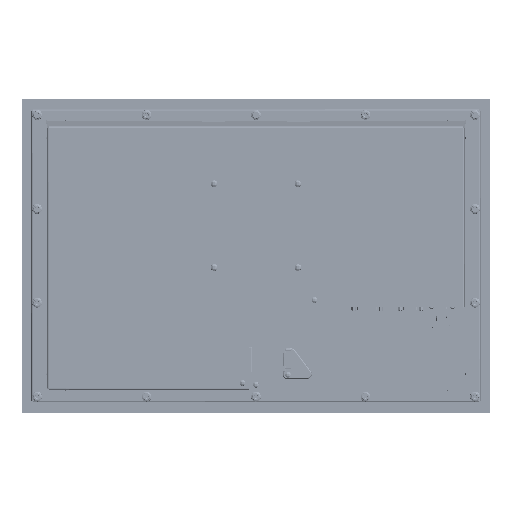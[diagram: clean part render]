
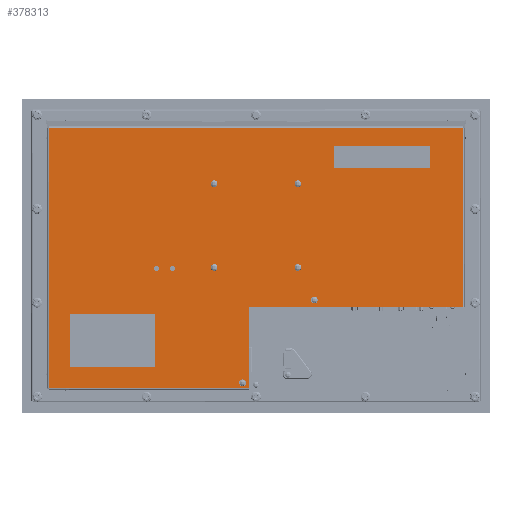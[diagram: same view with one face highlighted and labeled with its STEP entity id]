
A CAD part, top view. The second image highlights one B-rep face of the part: STEP entity #378313.
In plain terms, the highlighted planar face has unit normal (0, 0, 1).
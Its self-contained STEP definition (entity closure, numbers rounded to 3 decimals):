
#11229 = FACE_BOUND ( 'NONE', #327387, .T. ) ;
#22859 = FACE_BOUND ( 'NONE', #1001174, .T. ) ;
#39626 = VECTOR ( 'NONE', #1009216, 1000. ) ;
#45321 = CARTESIAN_POINT ( 'NONE',  ( 73.823, -52.604, 46.66 ) ) ;
#65424 = ORIENTED_EDGE ( 'NONE', *, *, #331232, .T. ) ;
#76864 = CARTESIAN_POINT ( 'NONE',  ( -7.874, -158.268, 46.66 ) ) ;
#85478 = VERTEX_POINT ( 'NONE', #45321 ) ;
#88569 = PLANE ( 'NONE',  #606086 ) ;
#94731 = AXIS2_PLACEMENT_3D ( 'NONE', #1047636, #235249, #419058 ) ;
#106246 = CARTESIAN_POINT ( 'NONE',  ( 247.269, 152.965, 46.66 ) ) ;
#125897 = EDGE_CURVE ( 'NONE', #279205, #993759, #923494, .T. ) ;
#148728 = VECTOR ( 'NONE', #293407, 1000. ) ;
#151752 = EDGE_CURVE ( 'NONE', #984573, #556070, #1061907, .T. ) ;
#160370 = CARTESIAN_POINT ( 'NONE',  ( -7.874, -158.268, 46.66 ) ) ;
#166311 = CIRCLE ( 'NONE', #829125, 4.064 ) ;
#175962 = VECTOR ( 'NONE', #966991, 1000. ) ;
#195092 = DIRECTION ( 'NONE',  ( 0., 0., 1. ) ) ;
#206605 = VERTEX_POINT ( 'NONE', #76864 ) ;
#221917 = LINE ( 'NONE', #660962, #148728 ) ;
#228861 = AXIS2_PLACEMENT_3D ( 'NONE', #1071170, #258775, #1082827 ) ;
#235249 = DIRECTION ( 'NONE',  ( 0., 0., 1. ) ) ;
#235319 = DIRECTION ( 'NONE',  ( 1., 0., 0. ) ) ;
#249376 = LINE ( 'NONE', #160370, #175962 ) ;
#258775 = DIRECTION ( 'NONE',  ( 0., 0., 1. ) ) ;
#279205 = VERTEX_POINT ( 'NONE', #1035155 ) ;
#284084 = DIRECTION ( 'NONE',  ( 1., 0., 0. ) ) ;
#293407 = DIRECTION ( 'NONE',  ( 0., 1., 0. ) ) ;
#326876 = VERTEX_POINT ( 'NONE', #963621 ) ;
#327387 = EDGE_LOOP ( 'NONE', ( #764228, #826970 ) ) ;
#331232 = EDGE_CURVE ( 'NONE', #993759, #326876, #221917, .T. ) ;
#349477 = AXIS2_PLACEMENT_3D ( 'NONE', #445874, #374436, #718626 ) ;
#374436 = DIRECTION ( 'NONE',  ( 0., 0., 1. ) ) ;
#378313 = ADVANCED_FACE ( 'Defeatured_120_9451', ( #22859, #11229, #906911 ), #88569, .T. ) ;
#419058 = DIRECTION ( 'NONE',  ( 1., 0., 0. ) ) ;
#445874 = CARTESIAN_POINT ( 'NONE',  ( 69.759, -52.604, 46.66 ) ) ;
#456602 = VECTOR ( 'NONE', #656530, 1000. ) ;
#457036 = EDGE_CURVE ( 'NONE', #85478, #978349, #965894, .T. ) ;
#459427 = EDGE_CURVE ( 'NONE', #916481, #206605, #1136756, .T. ) ;
#462036 = CARTESIAN_POINT ( 'NONE',  ( 0., -0.026, 46.66 ) ) ;
#474607 = CARTESIAN_POINT ( 'NONE',  ( -247.269, -158.268, 46.66 ) ) ;
#475407 = CARTESIAN_POINT ( 'NONE',  ( -247.269, 153.136, 46.66 ) ) ;
#491595 = EDGE_CURVE ( 'NONE', #978349, #85478, #860804, .T. ) ;
#497217 = ORIENTED_EDGE ( 'NONE', *, *, #1070954, .T. ) ;
#512171 = ORIENTED_EDGE ( 'NONE', *, *, #491595, .F. ) ;
#525794 = CARTESIAN_POINT ( 'NONE',  ( -16.042, -151.574, 46.66 ) ) ;
#531636 = DIRECTION ( 'NONE',  ( 1., 0., 0. ) ) ;
#537989 = CARTESIAN_POINT ( 'NONE',  ( -20.106, -151.574, 46.66 ) ) ;
#549516 = ORIENTED_EDGE ( 'NONE', *, *, #457036, .F. ) ;
#556070 = VERTEX_POINT ( 'NONE', #537989 ) ;
#585073 = CARTESIAN_POINT ( 'NONE',  ( -7.874, -60.986, 46.66 ) ) ;
#606086 = AXIS2_PLACEMENT_3D ( 'NONE', #462036, #195092, #284084 ) ;
#651814 = ORIENTED_EDGE ( 'NONE', *, *, #125897, .T. ) ;
#656530 = DIRECTION ( 'NONE',  ( 1., 0., 0. ) ) ;
#660962 = CARTESIAN_POINT ( 'NONE',  ( 247.269, 153.136, 46.66 ) ) ;
#686017 = CARTESIAN_POINT ( 'NONE',  ( -7.874, -158.268, 46.66 ) ) ;
#718626 = DIRECTION ( 'NONE',  ( 1., 0., 0. ) ) ;
#728613 = VECTOR ( 'NONE', #912981, 1000. ) ;
#764228 = ORIENTED_EDGE ( 'NONE', *, *, #151752, .F. ) ;
#765101 = CARTESIAN_POINT ( 'NONE',  ( 247.269, -60.986, 46.66 ) ) ;
#780814 = CARTESIAN_POINT ( 'NONE',  ( 65.695, -52.604, 46.66 ) ) ;
#819296 = VECTOR ( 'NONE', #235319, 1000. ) ;
#826970 = ORIENTED_EDGE ( 'NONE', *, *, #1080456, .F. ) ;
#829125 = AXIS2_PLACEMENT_3D ( 'NONE', #525794, #1077023, #531636 ) ;
#841402 = LINE ( 'NONE', #106246, #728613 ) ;
#860804 = CIRCLE ( 'NONE', #349477, 4.064 ) ;
#906911 = FACE_OUTER_BOUND ( 'NONE', #1009928, .T. ) ;
#911308 = ORIENTED_EDGE ( 'NONE', *, *, #459427, .T. ) ;
#912981 = DIRECTION ( 'NONE',  ( -1., 0., 0. ) ) ;
#916481 = VERTEX_POINT ( 'NONE', #474607 ) ;
#923494 = LINE ( 'NONE', #585073, #456602 ) ;
#923833 = EDGE_CURVE ( 'NONE', #206605, #279205, #249376, .T. ) ;
#926116 = LINE ( 'NONE', #475407, #39626 ) ;
#950134 = CARTESIAN_POINT ( 'NONE',  ( -247.269, 152.965, 46.66 ) ) ;
#963621 = CARTESIAN_POINT ( 'NONE',  ( 247.269, 152.965, 46.66 ) ) ;
#965894 = CIRCLE ( 'NONE', #94731, 4.064 ) ;
#966991 = DIRECTION ( 'NONE',  ( 0., 1., 0. ) ) ;
#975877 = ORIENTED_EDGE ( 'NONE', *, *, #923833, .T. ) ;
#978349 = VERTEX_POINT ( 'NONE', #780814 ) ;
#984573 = VERTEX_POINT ( 'NONE', #1040476 ) ;
#993759 = VERTEX_POINT ( 'NONE', #765101 ) ;
#1001174 = EDGE_LOOP ( 'NONE', ( #512171, #549516 ) ) ;
#1009216 = DIRECTION ( 'NONE',  ( 0., -1., 0. ) ) ;
#1009928 = EDGE_LOOP ( 'NONE', ( #65424, #1153779, #497217, #911308, #975877, #651814 ) ) ;
#1035155 = CARTESIAN_POINT ( 'NONE',  ( -7.874, -60.986, 46.66 ) ) ;
#1040476 = CARTESIAN_POINT ( 'NONE',  ( -11.978, -151.574, 46.66 ) ) ;
#1047636 = CARTESIAN_POINT ( 'NONE',  ( 69.759, -52.604, 46.66 ) ) ;
#1061907 = CIRCLE ( 'NONE', #228861, 4.064 ) ;
#1064547 = VERTEX_POINT ( 'NONE', #950134 ) ;
#1070954 = EDGE_CURVE ( 'NONE', #1064547, #916481, #926116, .T. ) ;
#1071170 = CARTESIAN_POINT ( 'NONE',  ( -16.042, -151.574, 46.66 ) ) ;
#1077023 = DIRECTION ( 'NONE',  ( 0., 0., 1. ) ) ;
#1080456 = EDGE_CURVE ( 'NONE', #556070, #984573, #166311, .T. ) ;
#1082827 = DIRECTION ( 'NONE',  ( 1., 0., 0. ) ) ;
#1119793 = EDGE_CURVE ( 'NONE', #326876, #1064547, #841402, .T. ) ;
#1136756 = LINE ( 'NONE', #686017, #819296 ) ;
#1153779 = ORIENTED_EDGE ( 'NONE', *, *, #1119793, .T. ) ;
